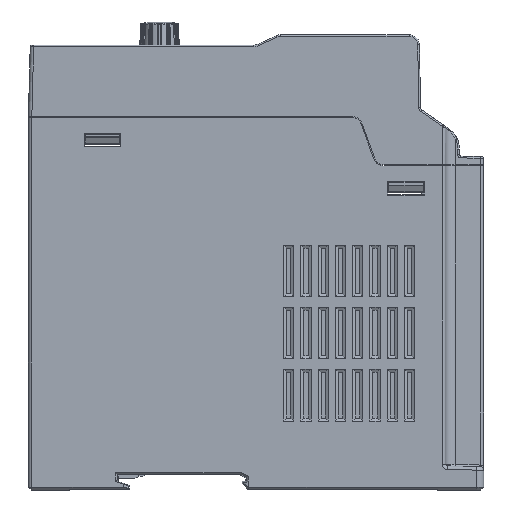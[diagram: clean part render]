
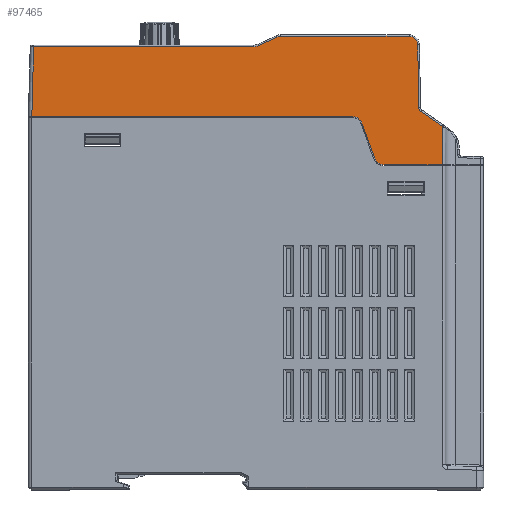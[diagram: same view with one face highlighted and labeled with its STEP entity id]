
A CAD part, front view. The second image highlights one B-rep face of the part: STEP entity #97465.
In plain terms, the highlighted planar face has unit normal (0, -1, 0).
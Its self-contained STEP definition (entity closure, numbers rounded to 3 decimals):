
#69084=DIRECTION('',(-1.,0.,0.));
#69085=VECTOR('',#69084,37.295);
#69086=CARTESIAN_POINT('',(44.394,-39.,23.5));
#69087=LINE('',#69086,#69085);
#69098=DIRECTION('',(0.819,0.,-0.574));
#69099=VECTOR('',#69098,7.508);
#69100=CARTESIAN_POINT('',(47.85,-39.,1.696));
#69101=LINE('',#69100,#69099);
#69105=CARTESIAN_POINT('',(37.196,-39.,-10.7));
#69106=DIRECTION('',(0.,1.,0.));
#69107=DIRECTION('',(0.,0.,-1.));
#69108=AXIS2_PLACEMENT_3D('',#69105,#69106,#69107);
#69113=DIRECTION('',(-0.342,0.,0.94));
#69114=VECTOR('',#69113,10.697);
#69115=CARTESIAN_POINT('',(34.377,-39.,-11.726));
#69116=LINE('',#69115,#69114);
#69120=CARTESIAN_POINT('',(27.899,-39.,-2.7));
#69121=DIRECTION('',(0.,-1.,0.));
#69122=DIRECTION('',(0.94,0.,0.342));
#69123=AXIS2_PLACEMENT_3D('',#69120,#69121,#69122);
#69128=DIRECTION('',(-1.,0.,0.));
#69129=VECTOR('',#69128,92.899);
#69130=CARTESIAN_POINT('',(27.899,-39.,0.3));
#69131=LINE('',#69130,#69129);
#69135=DIRECTION('',(0.026,0.,1.));
#69136=VECTOR('',#69135,20.207);
#69137=CARTESIAN_POINT('',(-65.,-39.,0.3));
#69138=LINE('',#69137,#69136);
#69142=CARTESIAN_POINT('',(-0.665,-39.,24.));
#69143=DIRECTION('',(0.,-1.,0.));
#69144=DIRECTION('',(0.,0.,-1.));
#69145=AXIS2_PLACEMENT_3D('',#69142,#69143,#69144);
#69150=DIRECTION('',(0.906,0.,0.423));
#69151=VECTOR('',#69150,5.768);
#69152=CARTESIAN_POINT('',(0.814,-39.,20.828));
#69153=LINE('',#69152,#69151);
#69157=CARTESIAN_POINT('',(7.099,-39.,21.));
#69158=DIRECTION('',(0.,1.,0.));
#69159=DIRECTION('',(-0.423,0.,0.906));
#69160=AXIS2_PLACEMENT_3D('',#69157,#69158,#69159);
#69165=CARTESIAN_POINT('',(44.394,-39.,21.));
#69166=DIRECTION('',(0.,1.,0.));
#69167=DIRECTION('',(0.,0.,1.));
#69168=AXIS2_PLACEMENT_3D('',#69165,#69166,#69167);
#69173=DIRECTION('',(0.017,0.,-1.));
#69174=VECTOR('',#69173,18.147);
#69175=CARTESIAN_POINT('',(46.893,-39.,21.044));
#69176=LINE('',#69175,#69174);
#69180=CARTESIAN_POINT('',(48.71,-39.,2.925));
#69181=DIRECTION('',(0.,-1.,0.));
#69182=DIRECTION('',(-1.,0.,-0.017));
#69183=AXIS2_PLACEMENT_3D('',#69180,#69181,#69182);
#69682=DIRECTION('',(1.,0.,0.));
#69683=VECTOR('',#69682,16.804);
#69684=CARTESIAN_POINT('',(37.196,-39.,-13.7));
#69685=LINE('',#69684,#69683);
#85832=DIRECTION('',(-1.,0.,0.));
#85833=VECTOR('',#85832,63.806);
#85834=CARTESIAN_POINT('',(-0.665,-39.,20.5));
#85835=LINE('',#85834,#85833);
#91993=DIRECTION('',(0.,0.,1.));
#91994=VECTOR('',#91993,11.09);
#91995=CARTESIAN_POINT('',(54.,-39.,-13.7));
#91996=LINE('',#91995,#91994);
#95788=CARTESIAN_POINT('',(-0.665,-39.,20.5));
#95789=CARTESIAN_POINT('',(-64.471,-39.,
20.5));
#95790=VERTEX_POINT('',#95788);
#95791=VERTEX_POINT('',#95789);
#95792=CARTESIAN_POINT('',(47.85,-39.,1.696));
#95793=CARTESIAN_POINT('',(54.,-39.,-2.61));
#95794=VERTEX_POINT('',#95792);
#95795=VERTEX_POINT('',#95793);
#95796=CARTESIAN_POINT('',(54.,-39.,-13.7));
#95797=VERTEX_POINT('',#95796);
#95798=CARTESIAN_POINT('',(37.196,-39.,-13.7));
#95799=VERTEX_POINT('',#95798);
#95800=CARTESIAN_POINT('',(34.377,-39.,-11.726));
#95801=VERTEX_POINT('',#95800);
#95802=CARTESIAN_POINT('',(30.718,-39.,-1.674));
#95803=VERTEX_POINT('',#95802);
#95804=CARTESIAN_POINT('',(27.899,-39.,0.3));
#95805=VERTEX_POINT('',#95804);
#95806=CARTESIAN_POINT('',(-65.,-39.,0.3));
#95807=VERTEX_POINT('',#95806);
#95808=CARTESIAN_POINT('',(0.814,-39.,20.828));
#95809=VERTEX_POINT('',#95808);
#95810=CARTESIAN_POINT('',(6.042,-39.,23.266));
#95811=VERTEX_POINT('',#95810);
#95812=CARTESIAN_POINT('',(7.099,-39.,23.5));
#95813=VERTEX_POINT('',#95812);
#95814=CARTESIAN_POINT('',(44.394,-39.,23.5));
#95815=VERTEX_POINT('',#95814);
#95816=CARTESIAN_POINT('',(46.893,-39.,21.044));
#95817=VERTEX_POINT('',#95816);
#95818=CARTESIAN_POINT('',(47.21,-39.,2.899));
#95819=VERTEX_POINT('',#95818);
#97427=CARTESIAN_POINT('',(-66.,-39.,-110.));
#97428=DIRECTION('',(0.,-1.,0.));
#97429=DIRECTION('',(1.,0.,0.));
#97430=AXIS2_PLACEMENT_3D('',#97427,#97428,#97429);
#97431=PLANE('',#97430);
#97433=ORIENTED_EDGE('',*,*,#97432,.T.);
#97435=ORIENTED_EDGE('',*,*,#97434,.F.);
#97437=ORIENTED_EDGE('',*,*,#97436,.F.);
#97439=ORIENTED_EDGE('',*,*,#97438,.T.);
#97441=ORIENTED_EDGE('',*,*,#97440,.T.);
#97443=ORIENTED_EDGE('',*,*,#97442,.T.);
#97445=ORIENTED_EDGE('',*,*,#97444,.T.);
#97447=ORIENTED_EDGE('',*,*,#97446,.T.);
#97449=ORIENTED_EDGE('',*,*,#97448,.F.);
#97451=ORIENTED_EDGE('',*,*,#97450,.T.);
#97453=ORIENTED_EDGE('',*,*,#97452,.T.);
#97455=ORIENTED_EDGE('',*,*,#97454,.T.);
#97456=ORIENTED_EDGE('',*,*,#97417,.F.);
#97458=ORIENTED_EDGE('',*,*,#97457,.T.);
#97460=ORIENTED_EDGE('',*,*,#97459,.T.);
#97462=ORIENTED_EDGE('',*,*,#97461,.T.);
#97463=EDGE_LOOP('',(#97433,#97435,#97437,#97439,#97441,#97443,#97445,#97447,
#97449,#97451,#97453,#97455,#97456,#97458,#97460,#97462));
#97464=FACE_OUTER_BOUND('',#97463,.F.);
#97465=ADVANCED_FACE('',(#97464),#97431,.T.);
#69109=CIRCLE('',#69108,3.);
#69124=CIRCLE('',#69123,3.);
#69146=CIRCLE('',#69145,3.5);
#69161=CIRCLE('',#69160,2.5);
#69169=CIRCLE('',#69168,2.5);
#69184=CIRCLE('',#69183,1.5);
#97417=EDGE_CURVE('',#95815,#95813,#69087,.T.);
#97432=EDGE_CURVE('',#95794,#95795,#69101,.T.);
#97434=EDGE_CURVE('',#95797,#95795,#91996,.T.);
#97436=EDGE_CURVE('',#95799,#95797,#69685,.T.);
#97438=EDGE_CURVE('',#95799,#95801,#69109,.T.);
#97440=EDGE_CURVE('',#95801,#95803,#69116,.T.);
#97442=EDGE_CURVE('',#95803,#95805,#69124,.T.);
#97444=EDGE_CURVE('',#95805,#95807,#69131,.T.);
#97446=EDGE_CURVE('',#95807,#95791,#69138,.T.);
#97448=EDGE_CURVE('',#95790,#95791,#85835,.T.);
#97450=EDGE_CURVE('',#95790,#95809,#69146,.T.);
#97452=EDGE_CURVE('',#95809,#95811,#69153,.T.);
#97454=EDGE_CURVE('',#95811,#95813,#69161,.T.);
#97457=EDGE_CURVE('',#95815,#95817,#69169,.T.);
#97459=EDGE_CURVE('',#95817,#95819,#69176,.T.);
#97461=EDGE_CURVE('',#95819,#95794,#69184,.T.);
